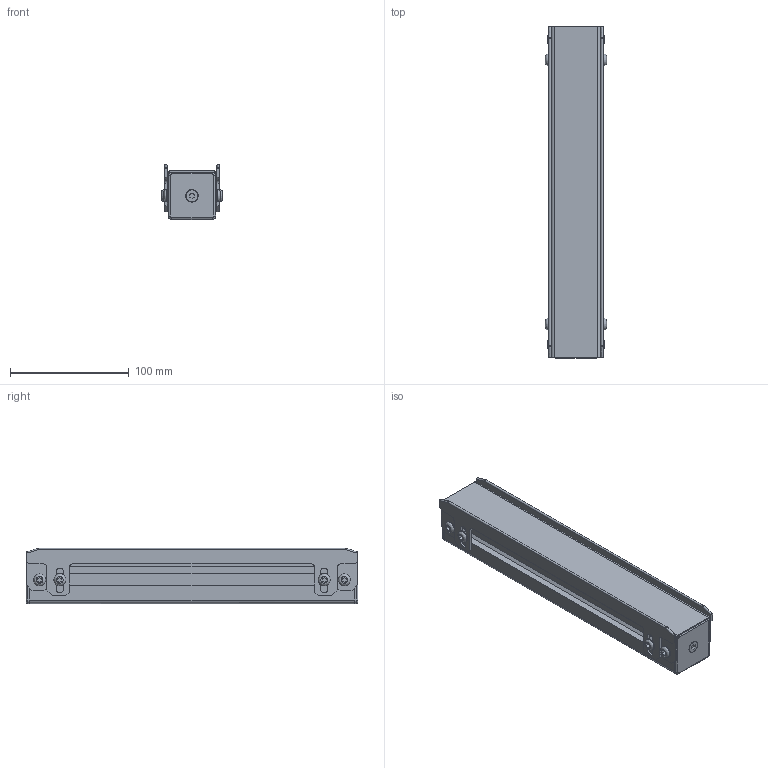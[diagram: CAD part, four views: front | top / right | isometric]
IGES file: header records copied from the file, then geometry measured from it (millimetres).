
Global section: file name: MGSS-FA-4040x280H; native system: unknown; preprocessor: unknown; author: unknown; organization: unknown; date: 20221215.125725; units: millimetre
Bounding box: 51.6 x 280 x 46.5 mm (x, y, z)
Volume: 222292.3 mm3; surface area: 193286.2 mm2
Topology: 16 solids, 16 shells, 352 faces, 936 edges, 618 vertices
Faces by surface type: bspline 352
